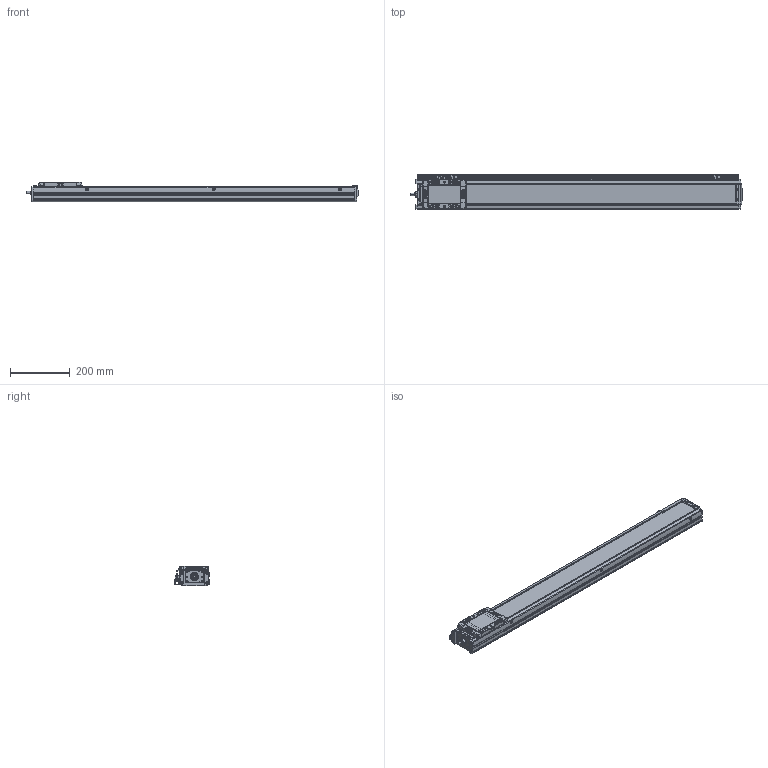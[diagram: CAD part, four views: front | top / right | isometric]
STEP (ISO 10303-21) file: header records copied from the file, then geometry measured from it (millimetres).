
FILE_DESCRIPTION(('STEP AP214'),'1');
FILE_NAME('Z:/Web/3D/SAN100/SAN100 양산용 (STEP)/SAN100ㅁㅁ-900+3SL.stp','2013-04-30T04:08:17',(' '),(' '),'Spatial InterOp 3D',' ',' ');
FILE_SCHEMA(('automotive_design'));
Length unit declared in the file: millimetre
Products named in the file (54): SGD-SAN100; M3.0 x 6.0; SRL-16x17-380L; EE-SX674; SBK-SX674-352; 스크루 : Round - M3.0 x 6.0; SUS COVER; SFX-SAN100; RRCV-SAN100; 스크루 : Round - M4.0 x 10.0; FRBL-SAN100; SLBL-SAN100; SLCV-SAN100; 스크루 : Countersunk - M3.0 x 6.0; BASE; 스크루 : Round - M5.0 x 6.0; 너트 : Square - M10.0 x 220.7419; RR1500-000L; FRCV-SAN100
Bounding box: 1116 x 116 x 66 mm (x, y, z)
Volume: 3011128.9 mm3; surface area: 833190.2 mm2
Topology: 54 solids, 55 shells, 2589 faces, 6748 edges, 4357 vertices
Faces by surface type: plane 1354, cylinder 891, cone 238, sphere 68, torus 26, bspline 12
Entity records: 102245 total; most frequent: CARTESIAN_POINT 15462, DIRECTION 14175, ORIENTED_EDGE 13292, EDGE_CURVE 6646, AXIS2_PLACEMENT_3D 5051, VERTEX_POINT 4357, LINE 4073, VECTOR 4073
